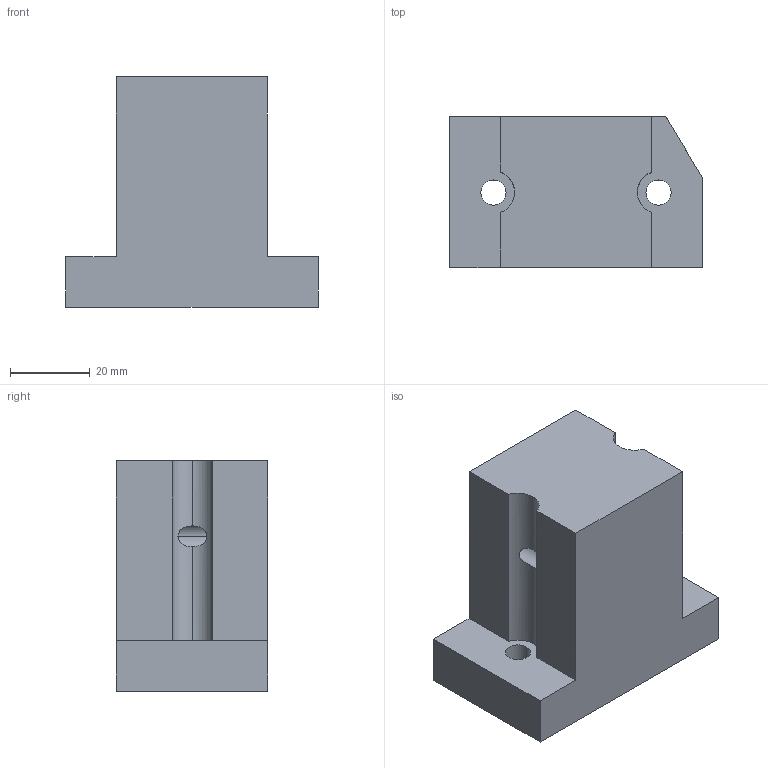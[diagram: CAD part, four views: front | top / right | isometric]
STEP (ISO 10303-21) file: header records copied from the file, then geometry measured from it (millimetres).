
FILE_DESCRIPTION (( 'STEP AP203' ), '1' );
FILE_NAME ('269-18-104.STEP', '2020-03-02T21:39:50', ( '' ), ( '' ), 'SwSTEP 2.0', 'SolidWorks 2017', '' );
FILE_SCHEMA (( 'CONFIG_CONTROL_DESIGN' ));
Length unit declared in the file: inch
Products named in the file (1): 269-18-104
Bounding box: 63.5 x 37.97 x 57.91 mm (x, y, z)
Volume: 88365.6 mm3; surface area: 16158.6 mm2
Topology: 1 solids, 1 shells, 40 faces, 113 edges, 74 vertices
Faces by surface type: plane 19, cylinder 16, cone 5
Entity records: 1515 total; most frequent: CARTESIAN_POINT 374, ORIENTED_EDGE 226, DIRECTION 218, EDGE_CURVE 113, AXIS2_PLACEMENT_3D 76, VERTEX_POINT 74, VECTOR 66, LINE 66
